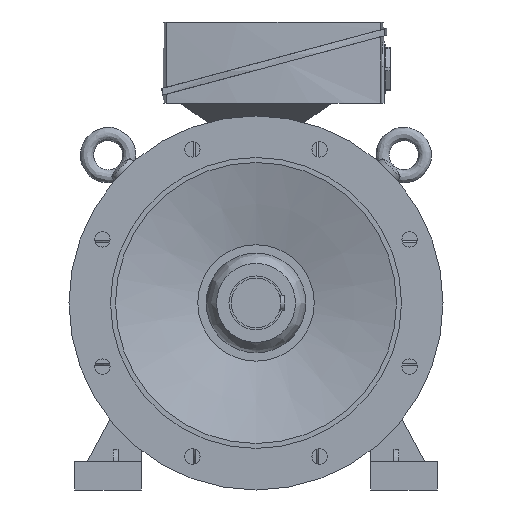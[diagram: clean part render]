
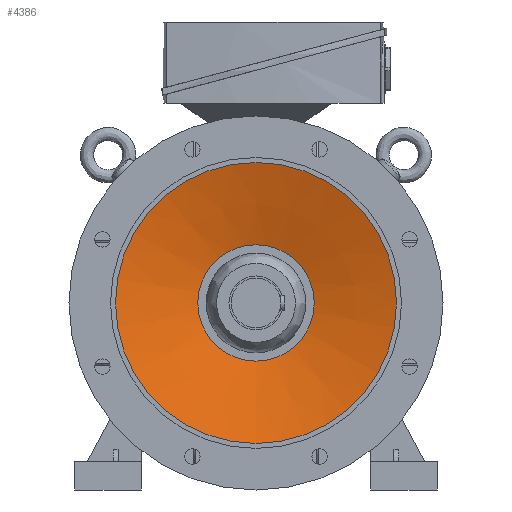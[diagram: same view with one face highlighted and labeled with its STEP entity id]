
A CAD part, left-side view. The second image highlights one B-rep face of the part: STEP entity #4386.
In plain terms, the highlighted conical face has half-angle 74.208 degrees and reference radius 169 mm.
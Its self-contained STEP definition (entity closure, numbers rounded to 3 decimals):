
#2003 = CARTESIAN_POINT ( 'NONE',  ( -57., 0., 0. ) ) ;
#2004 = DIRECTION ( 'NONE',  ( -1., 0., 0. ) ) ;
#2005 = DIRECTION ( 'NONE',  ( 0., 0., 1. ) ) ;
#4386 = ADVANCED_FACE ( 'NONE', ( #15991, #15995 ), #16001, .F. ) ;
#5207 = EDGE_CURVE ( 'NONE', #37424, #37424, #46298, .T. ) ;
#5529 = EDGE_CURVE ( 'NONE', #37435, #37435, #47002, .T. ) ;
#12500 = AXIS2_PLACEMENT_3D ( 'NONE', #17294, #17295, #17302 ) ;
#15879 = ORIENTED_EDGE ( 'NONE', *, *, #5207, .T. ) ;
#15880 = ORIENTED_EDGE ( 'NONE', *, *, #5529, .F. ) ;
#15991 = FACE_OUTER_BOUND ( 'NONE', #17722, .T. ) ;
#15995 = FACE_BOUND ( 'NONE', #17936, .T. ) ;
#16001 = CONICAL_SURFACE ( 'NONE', #12500, 169., 1.295 ) ;
#17294 = CARTESIAN_POINT ( 'NONE',  ( -85., 0., 0. ) ) ;
#17295 = DIRECTION ( 'NONE',  ( -1., 0., 0. ) ) ;
#17302 = DIRECTION ( 'NONE',  ( 0., 0., 1. ) ) ;
#17722 = EDGE_LOOP ( 'NONE', ( #15879 ) ) ;
#17936 = EDGE_LOOP ( 'NONE', ( #15880 ) ) ;
#37424 = VERTEX_POINT ( 'NONE', #44326 ) ;
#37435 = VERTEX_POINT ( 'NONE', #44344 ) ;
#42859 = AXIS2_PLACEMENT_3D ( 'NONE', #49406, #49407, #49409 ) ;
#42920 = AXIS2_PLACEMENT_3D ( 'NONE', #2003, #2004, #2005 ) ;
#44326 = CARTESIAN_POINT ( 'NONE',  ( -85., 0., 169. ) ) ;
#44344 = CARTESIAN_POINT ( 'NONE',  ( -57., 0., 70. ) ) ;
#46298 = CIRCLE ( 'NONE', #42859, 169. ) ;
#47002 = CIRCLE ( 'NONE', #42920, 70. ) ;
#49406 = CARTESIAN_POINT ( 'NONE',  ( -85., 0., 0. ) ) ;
#49407 = DIRECTION ( 'NONE',  ( -1., 0., 0. ) ) ;
#49409 = DIRECTION ( 'NONE',  ( 0., 0., 1. ) ) ;
